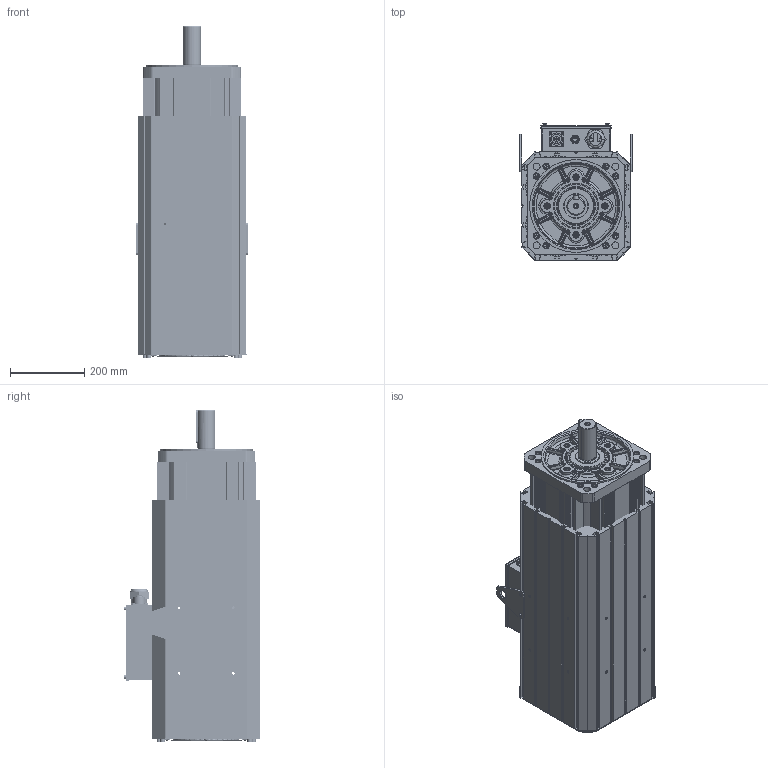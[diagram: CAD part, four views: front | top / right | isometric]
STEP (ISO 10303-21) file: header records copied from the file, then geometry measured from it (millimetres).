
FILE_DESCRIPTION (( 'STEP AP214' ), '1' );
FILE_NAME ('VM7-M26D-03715-D2FNH.STEP', '2022-04-02T01:18:19', ( '' ), ( '' ), 'SwSTEP 2.0', 'SolidWorks 2014', '' );
FILE_SCHEMA (( 'AUTOMOTIVE_DESIGN' ));
Length unit declared in the file: millimetre
Products named in the file (3): 翋极; VM7-M26D-03715-D2FNH; 俋褲
Assembly tree (2 placements, depth 2):
  VM7-M26D-03715-D2FNH
    翋极
    俋褲
Bounding box: 302 x 368.5 x 895 mm (x, y, z)
Volume: 29195128 mm3; surface area: 4300734.6 mm2
Topology: 120 solids, 120 shells, 4432 faces, 11332 edges, 7180 vertices
Faces by surface type: plane 2597, cylinder 1089, bspline 445, cone 301
Entity records: 152572 total; most frequent: CARTESIAN_POINT 45525, ORIENTED_EDGE 22412, DIRECTION 21224, EDGE_CURVE 11206, LINE 7212, VECTOR 7212, VERTEX_POINT 7180, AXIS2_PLACEMENT_3D 7006
